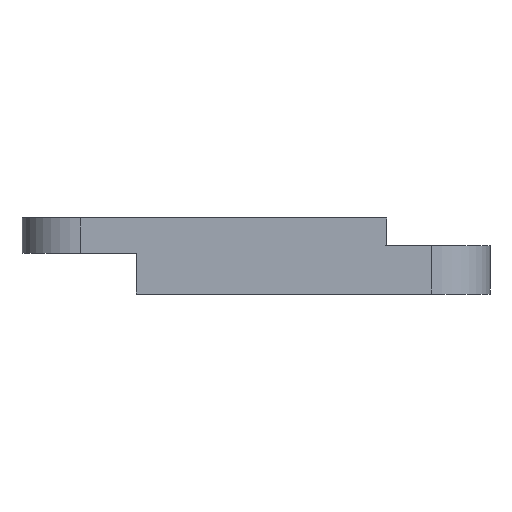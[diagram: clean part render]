
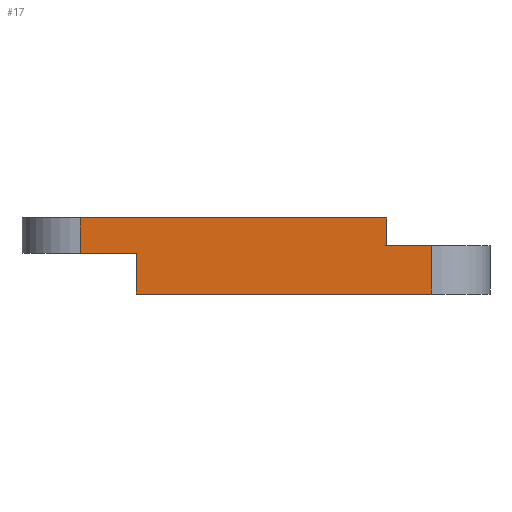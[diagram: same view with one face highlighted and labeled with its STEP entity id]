
A CAD part, left-side view. The second image highlights one B-rep face of the part: STEP entity #17.
In plain terms, the highlighted planar face has unit normal (-1, 0, 0).
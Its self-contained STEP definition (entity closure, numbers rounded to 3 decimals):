
#17 = ADVANCED_FACE('',(#18),#32,.F.);
#18 = FACE_BOUND('',#19,.F.);
#19 = EDGE_LOOP('',(#20,#55,#82,#110,#138,#166,#194,#222));
#20 = ORIENTED_EDGE('',*,*,#21,.T.);
#21 = EDGE_CURVE('',#22,#24,#26,.T.);
#22 = VERTEX_POINT('',#23);
#23 = CARTESIAN_POINT('',(-34.,-11.488,10.2));
#24 = VERTEX_POINT('',#25);
#25 = CARTESIAN_POINT('',(-34.,-21.962,10.2));
#26 = SURFACE_CURVE('',#27,(#31,#43),.PCURVE_S1.);
#27 = LINE('',#28,#29);
#28 = CARTESIAN_POINT('',(-34.,-62.744,10.2));
#29 = VECTOR('',#30,1.);
#30 = DIRECTION('',(0.,-1.,0.));
#31 = PCURVE('',#32,#37);
#32 = PLANE('',#33);
#33 = AXIS2_PLACEMENT_3D('',#34,#35,#36);
#34 = CARTESIAN_POINT('',(-34.,-25.488,7.6));
#35 = DIRECTION('',(1.,0.,0.));
#36 = DIRECTION('',(0.,0.,1.));
#37 = DEFINITIONAL_REPRESENTATION('',(#38),#42);
#38 = LINE('',#39,#40);
#39 = CARTESIAN_POINT('',(2.6,37.256));
#40 = VECTOR('',#41,1.);
#41 = DIRECTION('',(0.,1.));
#42 = ( GEOMETRIC_REPRESENTATION_CONTEXT(2) 
PARAMETRIC_REPRESENTATION_CONTEXT() REPRESENTATION_CONTEXT('2D SPACE',''
  ) );
#43 = PCURVE('',#44,#49);
#44 = PLANE('',#45);
#45 = AXIS2_PLACEMENT_3D('',#46,#47,#48);
#46 = CARTESIAN_POINT('',(-124.,-100.,10.2));
#47 = DIRECTION('',(0.,0.,1.));
#48 = DIRECTION('',(1.,0.,0.));
#49 = DEFINITIONAL_REPRESENTATION('',(#50),#54);
#50 = LINE('',#51,#52);
#51 = CARTESIAN_POINT('',(90.,37.256));
#52 = VECTOR('',#53,1.);
#53 = DIRECTION('',(0.,-1.));
#54 = ( GEOMETRIC_REPRESENTATION_CONTEXT(2) 
PARAMETRIC_REPRESENTATION_CONTEXT() REPRESENTATION_CONTEXT('2D SPACE',''
  ) );
#55 = ORIENTED_EDGE('',*,*,#56,.T.);
#56 = EDGE_CURVE('',#24,#57,#59,.T.);
#57 = VERTEX_POINT('',#58);
#58 = CARTESIAN_POINT('',(-34.,-21.962,9.25));
#59 = SURFACE_CURVE('',#60,(#64,#71),.PCURVE_S1.);
#60 = LINE('',#61,#62);
#61 = CARTESIAN_POINT('',(-34.,-21.962,9.25));
#62 = VECTOR('',#63,1.);
#63 = DIRECTION('',(-0.,-0.,-1.));
#64 = PCURVE('',#32,#65);
#65 = DEFINITIONAL_REPRESENTATION('',(#66),#70);
#66 = LINE('',#67,#68);
#67 = CARTESIAN_POINT('',(1.65,-3.526));
#68 = VECTOR('',#69,1.);
#69 = DIRECTION('',(-1.,0.));
#70 = ( GEOMETRIC_REPRESENTATION_CONTEXT(2) 
PARAMETRIC_REPRESENTATION_CONTEXT() REPRESENTATION_CONTEXT('2D SPACE',''
  ) );
#71 = PCURVE('',#72,#77);
#72 = CYLINDRICAL_SURFACE('',#73,18.9);
#73 = AXIS2_PLACEMENT_3D('',#74,#75,#76);
#74 = CARTESIAN_POINT('',(-24.,-38.,9.25));
#75 = DIRECTION('',(-0.,-0.,-1.));
#76 = DIRECTION('',(1.,0.,0.));
#77 = DEFINITIONAL_REPRESENTATION('',(#78),#81);
#78 = B_SPLINE_CURVE_WITH_KNOTS('',1,(#79,#80),.UNSPECIFIED.,.F.,.F.,(2,
    2),(-2.2,0.),.PIECEWISE_BEZIER_KNOTS.);
#79 = CARTESIAN_POINT('',(4.155,-2.2));
#80 = CARTESIAN_POINT('',(4.155,0.));
#81 = ( GEOMETRIC_REPRESENTATION_CONTEXT(2) 
PARAMETRIC_REPRESENTATION_CONTEXT() REPRESENTATION_CONTEXT('2D SPACE',''
  ) );
#82 = ORIENTED_EDGE('',*,*,#83,.T.);
#83 = EDGE_CURVE('',#57,#84,#86,.T.);
#84 = VERTEX_POINT('',#85);
#85 = CARTESIAN_POINT('',(-34.,-23.488,9.25));
#86 = SURFACE_CURVE('',#87,(#91,#98),.PCURVE_S1.);
#87 = LINE('',#88,#89);
#88 = CARTESIAN_POINT('',(-34.,-31.744,9.25));
#89 = VECTOR('',#90,1.);
#90 = DIRECTION('',(0.,-1.,0.));
#91 = PCURVE('',#32,#92);
#92 = DEFINITIONAL_REPRESENTATION('',(#93),#97);
#93 = LINE('',#94,#95);
#94 = CARTESIAN_POINT('',(1.65,6.256));
#95 = VECTOR('',#96,1.);
#96 = DIRECTION('',(0.,1.));
#97 = ( GEOMETRIC_REPRESENTATION_CONTEXT(2) 
PARAMETRIC_REPRESENTATION_CONTEXT() REPRESENTATION_CONTEXT('2D SPACE',''
  ) );
#98 = PCURVE('',#99,#104);
#99 = PLANE('',#100);
#100 = AXIS2_PLACEMENT_3D('',#101,#102,#103);
#101 = CARTESIAN_POINT('',(-24.,-38.,9.25));
#102 = DIRECTION('',(0.,0.,1.));
#103 = DIRECTION('',(1.,0.,-0.));
#104 = DEFINITIONAL_REPRESENTATION('',(#105),#109);
#105 = LINE('',#106,#107);
#106 = CARTESIAN_POINT('',(-10.,6.256));
#107 = VECTOR('',#108,1.);
#108 = DIRECTION('',(0.,-1.));
#109 = ( GEOMETRIC_REPRESENTATION_CONTEXT(2) 
PARAMETRIC_REPRESENTATION_CONTEXT() REPRESENTATION_CONTEXT('2D SPACE',''
  ) );
#110 = ORIENTED_EDGE('',*,*,#111,.F.);
#111 = EDGE_CURVE('',#112,#84,#114,.T.);
#112 = VERTEX_POINT('',#113);
#113 = CARTESIAN_POINT('',(-34.,-23.488,7.6));
#114 = SURFACE_CURVE('',#115,(#119,#126),.PCURVE_S1.);
#115 = LINE('',#116,#117);
#116 = CARTESIAN_POINT('',(-34.,-23.488,7.6));
#117 = VECTOR('',#118,1.);
#118 = DIRECTION('',(0.,0.,1.));
#119 = PCURVE('',#32,#120);
#120 = DEFINITIONAL_REPRESENTATION('',(#121),#125);
#121 = LINE('',#122,#123);
#122 = CARTESIAN_POINT('',(0.,-2.));
#123 = VECTOR('',#124,1.);
#124 = DIRECTION('',(1.,0.));
#125 = ( GEOMETRIC_REPRESENTATION_CONTEXT(2) 
PARAMETRIC_REPRESENTATION_CONTEXT() REPRESENTATION_CONTEXT('2D SPACE',''
  ) );
#126 = PCURVE('',#127,#132);
#127 = CYLINDRICAL_SURFACE('',#128,2.);
#128 = AXIS2_PLACEMENT_3D('',#129,#130,#131);
#129 = CARTESIAN_POINT('',(-32.,-23.488,7.6));
#130 = DIRECTION('',(0.,0.,1.));
#131 = DIRECTION('',(-1.,-0.,0.));
#132 = DEFINITIONAL_REPRESENTATION('',(#133),#137);
#133 = LINE('',#134,#135);
#134 = CARTESIAN_POINT('',(0.,0.));
#135 = VECTOR('',#136,1.);
#136 = DIRECTION('',(0.,1.));
#137 = ( GEOMETRIC_REPRESENTATION_CONTEXT(2) 
PARAMETRIC_REPRESENTATION_CONTEXT() REPRESENTATION_CONTEXT('2D SPACE',''
  ) );
#138 = ORIENTED_EDGE('',*,*,#139,.T.);
#139 = EDGE_CURVE('',#112,#140,#142,.T.);
#140 = VERTEX_POINT('',#141);
#141 = CARTESIAN_POINT('',(-34.,-13.4,7.6));
#142 = SURFACE_CURVE('',#143,(#147,#154),.PCURVE_S1.);
#143 = LINE('',#144,#145);
#144 = CARTESIAN_POINT('',(-34.,-25.488,7.6));
#145 = VECTOR('',#146,1.);
#146 = DIRECTION('',(0.,1.,0.));
#147 = PCURVE('',#32,#148);
#148 = DEFINITIONAL_REPRESENTATION('',(#149),#153);
#149 = LINE('',#150,#151);
#150 = CARTESIAN_POINT('',(0.,0.));
#151 = VECTOR('',#152,1.);
#152 = DIRECTION('',(0.,-1.));
#153 = ( GEOMETRIC_REPRESENTATION_CONTEXT(2) 
PARAMETRIC_REPRESENTATION_CONTEXT() REPRESENTATION_CONTEXT('2D SPACE',''
  ) );
#154 = PCURVE('',#155,#160);
#155 = PLANE('',#156);
#156 = AXIS2_PLACEMENT_3D('',#157,#158,#159);
#157 = CARTESIAN_POINT('',(-34.,-25.488,7.6));
#158 = DIRECTION('',(0.,0.,1.));
#159 = DIRECTION('',(1.,0.,-0.));
#160 = DEFINITIONAL_REPRESENTATION('',(#161),#165);
#161 = LINE('',#162,#163);
#162 = CARTESIAN_POINT('',(0.,0.));
#163 = VECTOR('',#164,1.);
#164 = DIRECTION('',(0.,1.));
#165 = ( GEOMETRIC_REPRESENTATION_CONTEXT(2) 
PARAMETRIC_REPRESENTATION_CONTEXT() REPRESENTATION_CONTEXT('2D SPACE',''
  ) );
#166 = ORIENTED_EDGE('',*,*,#167,.T.);
#167 = EDGE_CURVE('',#140,#168,#170,.T.);
#168 = VERTEX_POINT('',#169);
#169 = CARTESIAN_POINT('',(-34.,-13.4,9.));
#170 = SURFACE_CURVE('',#171,(#175,#182),.PCURVE_S1.);
#171 = LINE('',#172,#173);
#172 = CARTESIAN_POINT('',(-34.,-13.4,3.8));
#173 = VECTOR('',#174,1.);
#174 = DIRECTION('',(0.,0.,1.));
#175 = PCURVE('',#32,#176);
#176 = DEFINITIONAL_REPRESENTATION('',(#177),#181);
#177 = LINE('',#178,#179);
#178 = CARTESIAN_POINT('',(-3.8,-12.088));
#179 = VECTOR('',#180,1.);
#180 = DIRECTION('',(1.,0.));
#181 = ( GEOMETRIC_REPRESENTATION_CONTEXT(2) 
PARAMETRIC_REPRESENTATION_CONTEXT() REPRESENTATION_CONTEXT('2D SPACE',''
  ) );
#182 = PCURVE('',#183,#188);
#183 = PLANE('',#184);
#184 = AXIS2_PLACEMENT_3D('',#185,#186,#187);
#185 = CARTESIAN_POINT('',(-55.5,-13.4,0.));
#186 = DIRECTION('',(0.,1.,0.));
#187 = DIRECTION('',(0.,-0.,1.));
#188 = DEFINITIONAL_REPRESENTATION('',(#189),#193);
#189 = LINE('',#190,#191);
#190 = CARTESIAN_POINT('',(3.8,21.5));
#191 = VECTOR('',#192,1.);
#192 = DIRECTION('',(1.,0.));
#193 = ( GEOMETRIC_REPRESENTATION_CONTEXT(2) 
PARAMETRIC_REPRESENTATION_CONTEXT() REPRESENTATION_CONTEXT('2D SPACE',''
  ) );
#194 = ORIENTED_EDGE('',*,*,#195,.F.);
#195 = EDGE_CURVE('',#196,#168,#198,.T.);
#196 = VERTEX_POINT('',#197);
#197 = CARTESIAN_POINT('',(-34.,-11.488,9.));
#198 = SURFACE_CURVE('',#199,(#203,#210),.PCURVE_S1.);
#199 = LINE('',#200,#201);
#200 = CARTESIAN_POINT('',(-34.,-19.444,9.));
#201 = VECTOR('',#202,1.);
#202 = DIRECTION('',(0.,-1.,0.));
#203 = PCURVE('',#32,#204);
#204 = DEFINITIONAL_REPRESENTATION('',(#205),#209);
#205 = LINE('',#206,#207);
#206 = CARTESIAN_POINT('',(1.4,-6.044));
#207 = VECTOR('',#208,1.);
#208 = DIRECTION('',(0.,1.));
#209 = ( GEOMETRIC_REPRESENTATION_CONTEXT(2) 
PARAMETRIC_REPRESENTATION_CONTEXT() REPRESENTATION_CONTEXT('2D SPACE',''
  ) );
#210 = PCURVE('',#211,#216);
#211 = PLANE('',#212);
#212 = AXIS2_PLACEMENT_3D('',#213,#214,#215);
#213 = CARTESIAN_POINT('',(-55.5,-13.4,9.));
#214 = DIRECTION('',(0.,0.,1.));
#215 = DIRECTION('',(1.,0.,-0.));
#216 = DEFINITIONAL_REPRESENTATION('',(#217),#221);
#217 = LINE('',#218,#219);
#218 = CARTESIAN_POINT('',(21.5,-6.044));
#219 = VECTOR('',#220,1.);
#220 = DIRECTION('',(0.,-1.));
#221 = ( GEOMETRIC_REPRESENTATION_CONTEXT(2) 
PARAMETRIC_REPRESENTATION_CONTEXT() REPRESENTATION_CONTEXT('2D SPACE',''
  ) );
#222 = ORIENTED_EDGE('',*,*,#223,.T.);
#223 = EDGE_CURVE('',#196,#22,#224,.T.);
#224 = SURFACE_CURVE('',#225,(#229,#236),.PCURVE_S1.);
#225 = LINE('',#226,#227);
#226 = CARTESIAN_POINT('',(-34.,-11.488,7.6));
#227 = VECTOR('',#228,1.);
#228 = DIRECTION('',(0.,0.,1.));
#229 = PCURVE('',#32,#230);
#230 = DEFINITIONAL_REPRESENTATION('',(#231),#235);
#231 = LINE('',#232,#233);
#232 = CARTESIAN_POINT('',(0.,-14.));
#233 = VECTOR('',#234,1.);
#234 = DIRECTION('',(1.,0.));
#235 = ( GEOMETRIC_REPRESENTATION_CONTEXT(2) 
PARAMETRIC_REPRESENTATION_CONTEXT() REPRESENTATION_CONTEXT('2D SPACE',''
  ) );
#236 = PCURVE('',#237,#242);
#237 = CYLINDRICAL_SURFACE('',#238,2.);
#238 = AXIS2_PLACEMENT_3D('',#239,#240,#241);
#239 = CARTESIAN_POINT('',(-32.,-11.488,7.6));
#240 = DIRECTION('',(0.,0.,1.));
#241 = DIRECTION('',(-1.,-0.,0.));
#242 = DEFINITIONAL_REPRESENTATION('',(#243),#247);
#243 = LINE('',#244,#245);
#244 = CARTESIAN_POINT('',(6.283,0.));
#245 = VECTOR('',#246,1.);
#246 = DIRECTION('',(-0.,1.));
#247 = ( GEOMETRIC_REPRESENTATION_CONTEXT(2) 
PARAMETRIC_REPRESENTATION_CONTEXT() REPRESENTATION_CONTEXT('2D SPACE',''
  ) );
